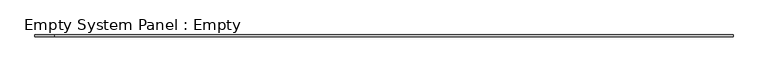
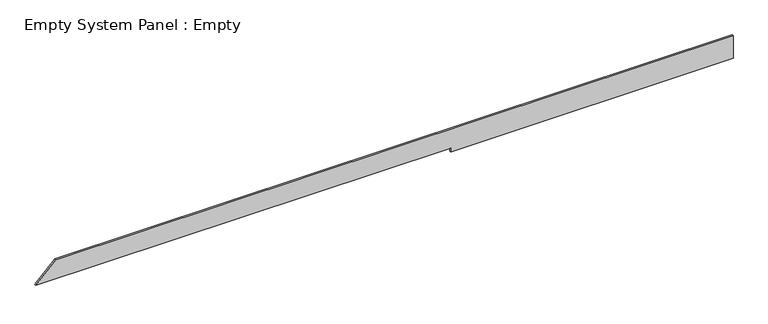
"""IFC4 building model written with IfcOpenShell, lengths in millimetres: plate geometry, Empty System Panel : Empty."""

from ifc_helpers import new_model, si_unit, frame, origin, place, context, project, spatial, polyline, outline, extrude, source, transform, mapped, element, save


def empty_system_panel_empty_851c8931(model_context):
    return source(origin(), model_context, "Body", "SweptSolid", [
        extrude(outline(polyline([(0.0, 3813.2467962), (0.0, 20108.2467962), (1375.3195673, 20108.2467962), (1375.3195673, -18964.2014454), (218.4752997, -20108.2467962), (218.4752997, 3663.2467962), (223.6990481, 3663.2467962), (223.6990481, 3813.2467962), (0.0, 3813.2467962)])), frame((0.0, -50.0, 0.0), z_axis=(0.0, 1.0, 0.0), x_axis=(0.0, 0.0, 1.0)), (0.0, 0.0, 1.0), 100.0),
    ])


if __name__ == "__main__":
    model = new_model("IFC4")
    model_context = context("Model", 3, world=origin())
    ifc_project = project(units=[si_unit("LENGTHUNIT", "METRE", prefix="MILLI")], contexts=[model_context])
    site = spatial("IfcSite", under=ifc_project)
    building = spatial("IfcBuilding", under=site)
    placement = place(None, origin())
    empty_system_panel_empty_shape = empty_system_panel_empty_851c8931(model_context)
    element("IfcPlate", 1, ObjectType="Empty System Panel : Empty", at=placement, inside=building, context=model_context, shape_type="MappedRepresentation", body=[
        mapped(empty_system_panel_empty_shape, transform((0.0, 0.0, 0.0), x_axis=(1.0, 0.0, 0.0), y_axis=(0.0, 1.0, 0.0), z_axis=(0.0, 0.0, 1.0))),
    ])
    save(model, "model.ifc")
